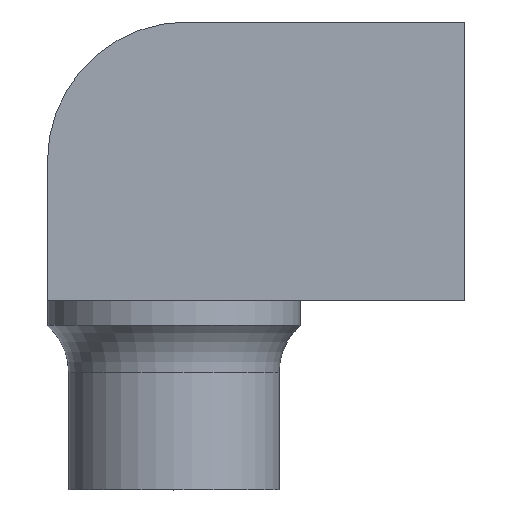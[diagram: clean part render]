
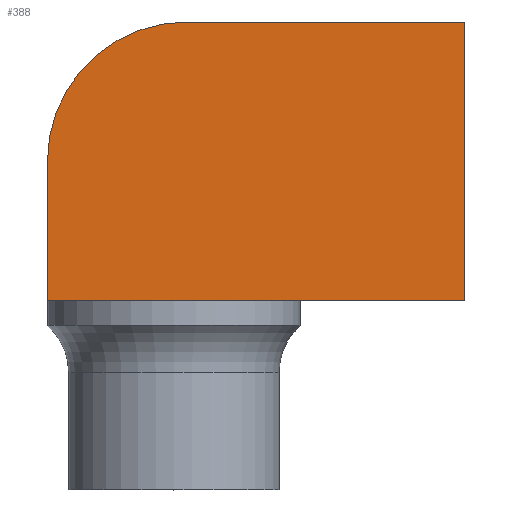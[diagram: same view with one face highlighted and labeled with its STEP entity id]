
A CAD part, top view. The second image highlights one B-rep face of the part: STEP entity #388.
In plain terms, the highlighted planar face has unit normal (0, 0, 1).
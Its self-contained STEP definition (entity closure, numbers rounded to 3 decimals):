
#5 = EDGE_CURVE ( 'NONE', #366, #371, #37, .T. ) ;
#23 = CARTESIAN_POINT ( 'NONE',  ( 16.5, -11., 20. ) ) ;
#37 = LINE ( 'NONE', #427, #58 ) ;
#55 = LINE ( 'NONE', #100, #211 ) ;
#57 = DIRECTION ( 'NONE',  ( 1., 0., 0. ) ) ;
#58 = VECTOR ( 'NONE', #239, 1000. ) ;
#76 = ORIENTED_EDGE ( 'NONE', *, *, #204, .T. ) ;
#93 = VERTEX_POINT ( 'NONE', #288 ) ;
#100 = CARTESIAN_POINT ( 'NONE',  ( 16.5, -11., 20. ) ) ;
#107 = CARTESIAN_POINT ( 'NONE',  ( -16.5, 0., 20. ) ) ;
#111 = DIRECTION ( 'NONE',  ( 0., 1., 0. ) ) ;
#125 = CARTESIAN_POINT ( 'NONE',  ( 0., 0., 20. ) ) ;
#142 = EDGE_CURVE ( 'NONE', #248, #366, #266, .T. ) ;
#154 = CIRCLE ( 'NONE', #276, 11. ) ;
#158 = CARTESIAN_POINT ( 'NONE',  ( 16.5, -11., 20. ) ) ;
#163 = CARTESIAN_POINT ( 'NONE',  ( -5.5, 11., 20. ) ) ;
#167 = VECTOR ( 'NONE', #457, 1000. ) ;
#171 = EDGE_CURVE ( 'NONE', #332, #93, #324, .T. ) ;
#172 = CARTESIAN_POINT ( 'NONE',  ( 16.5, -11., 20. ) ) ;
#192 = DIRECTION ( 'NONE',  ( 1., 0., 0. ) ) ;
#204 = EDGE_CURVE ( 'NONE', #371, #332, #154, .T. ) ;
#211 = VECTOR ( 'NONE', #434, 1000. ) ;
#227 = EDGE_CURVE ( 'NONE', #394, #248, #349, .T. ) ;
#236 = ORIENTED_EDGE ( 'NONE', *, *, #171, .T. ) ;
#237 = VECTOR ( 'NONE', #111, 1000. ) ;
#239 = DIRECTION ( 'NONE',  ( -1., 0., 0. ) ) ;
#246 = AXIS2_PLACEMENT_3D ( 'NONE', #125, #421, #57 ) ;
#248 = VERTEX_POINT ( 'NONE', #158 ) ;
#255 = PLANE ( 'NONE',  #246 ) ;
#266 = LINE ( 'NONE', #172, #237 ) ;
#272 = ORIENTED_EDGE ( 'NONE', *, *, #142, .T. ) ;
#273 = FACE_OUTER_BOUND ( 'NONE', #455, .T. ) ;
#276 = AXIS2_PLACEMENT_3D ( 'NONE', #358, #372, #192 ) ;
#288 = CARTESIAN_POINT ( 'NONE',  ( -16.5, -11., 20. ) ) ;
#311 = DIRECTION ( 'NONE',  ( 0., -1., 0. ) ) ;
#324 = LINE ( 'NONE', #377, #449 ) ;
#332 = VERTEX_POINT ( 'NONE', #107 ) ;
#339 = EDGE_CURVE ( 'NONE', #93, #394, #55, .T. ) ;
#347 = ORIENTED_EDGE ( 'NONE', *, *, #227, .T. ) ;
#349 = LINE ( 'NONE', #23, #167 ) ;
#358 = CARTESIAN_POINT ( 'NONE',  ( -5.5, 0., 20. ) ) ;
#366 = VERTEX_POINT ( 'NONE', #456 ) ;
#371 = VERTEX_POINT ( 'NONE', #163 ) ;
#372 = DIRECTION ( 'NONE',  ( 0., 0., 1. ) ) ;
#377 = CARTESIAN_POINT ( 'NONE',  ( -16.5, -11., 20. ) ) ;
#384 = ORIENTED_EDGE ( 'NONE', *, *, #339, .T. ) ;
#388 = ADVANCED_FACE ( 'NONE', ( #273 ), #255, .T. ) ;
#393 = CARTESIAN_POINT ( 'NONE',  ( -6.5, -11., 20. ) ) ;
#394 = VERTEX_POINT ( 'NONE', #393 ) ;
#421 = DIRECTION ( 'NONE',  ( 0., 0., 1. ) ) ;
#427 = CARTESIAN_POINT ( 'NONE',  ( 16.5, 11., 20. ) ) ;
#434 = DIRECTION ( 'NONE',  ( 1., 0., 0. ) ) ;
#435 = ORIENTED_EDGE ( 'NONE', *, *, #5, .T. ) ;
#449 = VECTOR ( 'NONE', #311, 1000. ) ;
#455 = EDGE_LOOP ( 'NONE', ( #435, #76, #236, #384, #347, #272 ) ) ;
#456 = CARTESIAN_POINT ( 'NONE',  ( 16.5, 11., 20. ) ) ;
#457 = DIRECTION ( 'NONE',  ( 1., 0., 0. ) ) ;
